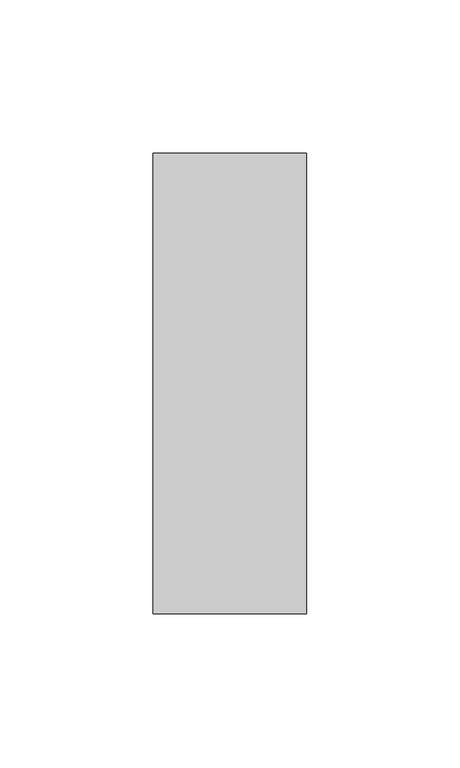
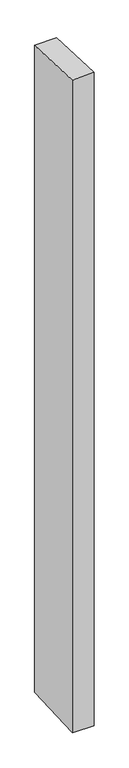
"""IFC4 building model written with IfcOpenShell, lengths in millimetres: member geometry, Прямоугольный импост : 50 x 150 мм."""

from ifc_helpers import new_model, si_unit, origin, place, context, project, spatial, faceted_brep, source, transform, mapped, element, save


def member_36dc05a1(model_context):
    return source(origin(), model_context, "Body", "Brep", [
        faceted_brep([(-25.0, 75.0, -4.0364856), (25.0, 75.0, -2.8600836), (25.0, 75.0, -1574.4409103), (-25.0, 75.0, -1573.031438), (-25.0, -75.0, 2.8600836), (-25.0, -75.0, -1579.6690024), (25.0, -75.0, 4.0364856), (25.0, -75.0, -1581.0784746)], [[[0, 1, 2, 3]], [[4, 0, 3, 5]], [[6, 4, 5, 7]], [[1, 6, 7, 2]], [[1, 0, 4, 6]], [[2, 7, 5, 3]]]),
    ])


if __name__ == "__main__":
    model = new_model("IFC4")
    model_context = context("Model", 3, world=origin())
    ifc_project = project(units=[si_unit("LENGTHUNIT", "METRE", prefix="MILLI")], contexts=[model_context])
    site = spatial("IfcSite", under=ifc_project)
    building = spatial("IfcBuilding", under=site)
    placement = place(None, origin())
    member_shape = member_36dc05a1(model_context)
    element("IfcMember", 1, ObjectType="Прямоугольный импост : 50 x 150 мм", at=placement, inside=building, context=model_context, shape_type="MappedRepresentation", body=[
        mapped(member_shape, transform((0.0, 0.0, 0.0), x_axis=(1.0, 0.0, 0.0), y_axis=(0.0, 1.0, 0.0), z_axis=(0.0, 0.0, 1.0))),
    ])
    save(model, "model.ifc")
